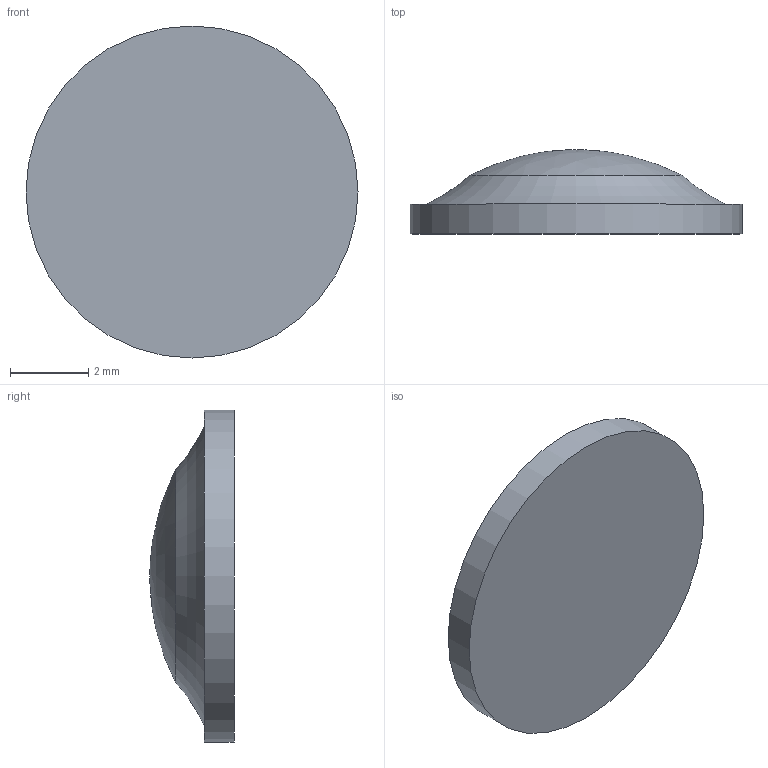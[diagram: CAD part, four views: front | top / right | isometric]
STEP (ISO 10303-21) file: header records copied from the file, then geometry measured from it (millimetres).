
FILE_DESCRIPTION(/* description */ (''),/* implementation_level */ '2;1');
FILE_NAME(/* name */ 'C:/Users/Mark/Downloads/STEP Files/BS07.step',/* time_stamp */ '2020-02-10T10:57:35-05:00',/* author */ (''),/* organization */ (''),/* preprocessor_version */ 'ST-DEVELOPER v18',/* originating_system */ 'Autodesk Translation Framework v8.12.0.6',/* authorisation */ '');
FILE_SCHEMA (('AUTOMOTIVE_DESIGN { 1 0 10303 214 3 1 1 }'));
Length unit declared in the file: inch
Products named in the file (1): BS07
Bounding box: 8.51 x 2.16 x 8.51 mm (x, y, z)
Volume: 75.5 mm3; surface area: 140 mm2
Topology: 1 solids, 1 shells, 5 faces, 10 edges, 7 vertices
Faces by surface type: plane 2, torus 1, bspline 1, cylinder 1
Full cylindrical faces by diameter (mm): 8.509 x1
Entity records: 192 total; most frequent: CARTESIAN_POINT 48, DIRECTION 27, ORIENTED_EDGE 18, AXIS2_PLACEMENT_3D 13, EDGE_CURVE 9, CIRCLE 8, VERTEX_POINT 7, EDGE_LOOP 6
